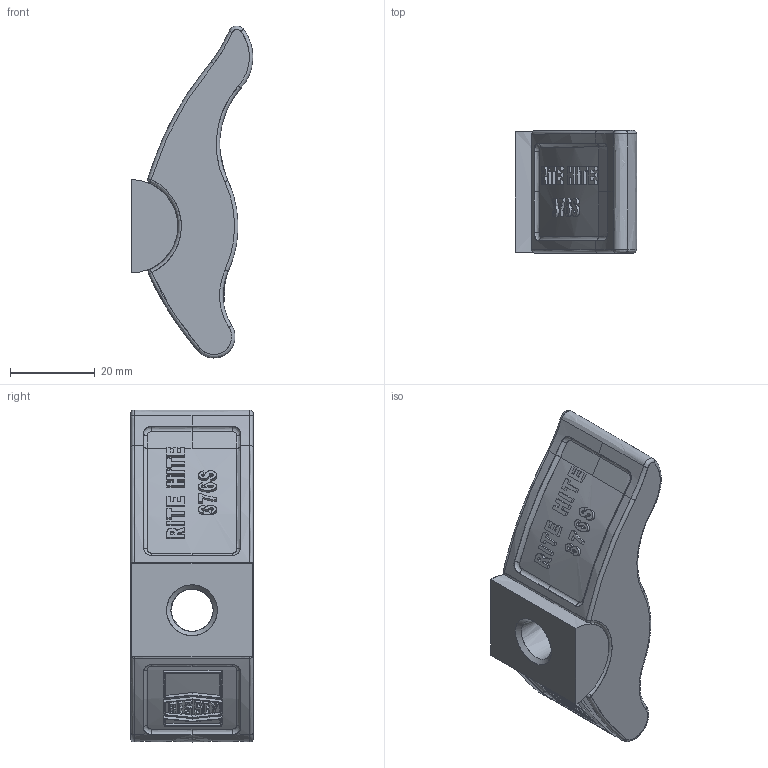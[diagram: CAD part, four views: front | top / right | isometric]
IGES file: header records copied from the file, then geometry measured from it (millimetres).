
Start section: ZWSOFT
Global section: file name: 376S.igs; native system: ZW3D; preprocessor: 1.0; author: ZW3D; organization: ZWSOFT; date: 121122.095342; units: millimetre
Bounding box: 28.74 x 29 x 78.53 mm (x, y, z)
Surface area: 10736.6 mm2 (no closed solid volume)
Topology: 0 solids, 0 shells, 407 faces, 2460 edges, 2699 vertices
Faces by surface type: bspline 407
